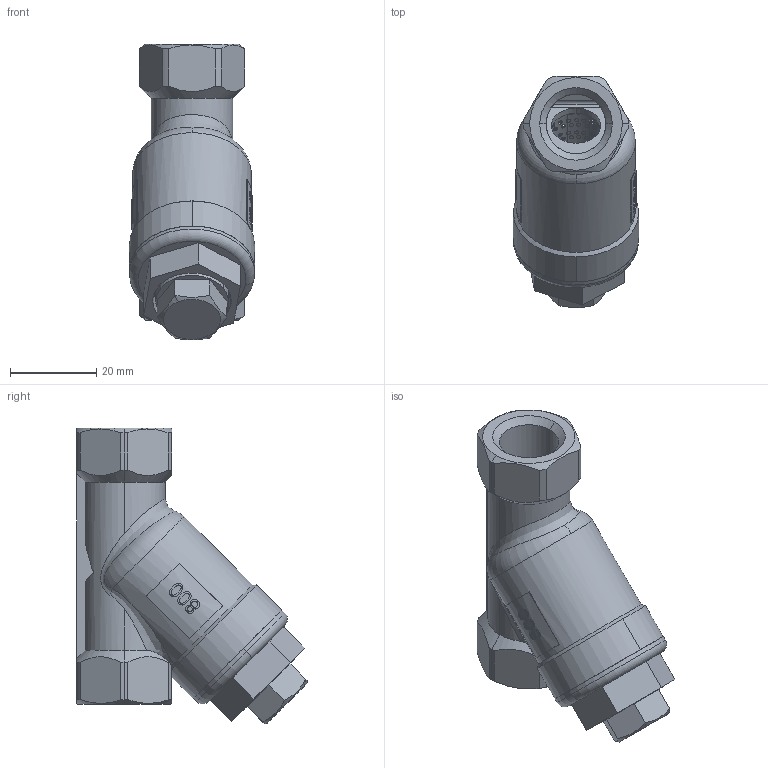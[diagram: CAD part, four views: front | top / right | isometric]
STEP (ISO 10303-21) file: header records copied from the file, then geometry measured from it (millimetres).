
FILE_DESCRIPTION (( 'STEP AP203' ), '1' );
FILE_NAME ('MV-41B-000 DN10.STEP', '2023-02-11T01:56:24', ( '' ), ( '' ), 'SwSTEP 2.0', 'SolidWorks 2012', '' );
FILE_SCHEMA (( 'CONFIG_CONTROL_DESIGN' ));
Length unit declared in the file: millimetre
Products named in the file (7): MV-41B-000 DN10; MV-41B DN10 BLOW OFF; MV-41B DN15 JOINT GASKET; 薦厙; MV-41B DN10 O-RING; MV-41B DN10 CAP; MV-41B DN10 BODY
Assembly tree (6 placements, depth 2):
  MV-41B-000 DN10
    MV-41B DN10 BODY
    MV-41B DN10 CAP
    MV-41B DN10 BLOW OFF
    MV-41B DN10 O-RING
    MV-41B DN15 JOINT GASKET
    薦厙
Bounding box: 29 x 53.45 x 68.55 mm (x, y, z)
Volume: 26332.4 mm3; surface area: 21043 mm2
Topology: 6 solids, 6 shells, 1386 faces, 3437 edges, 2255 vertices
Faces by surface type: bspline 960, cylinder 300, plane 99, cone 23, torus 4
Entity records: 98734 total; most frequent: CARTESIAN_POINT 72383, ORIENTED_EDGE 6786, EDGE_CURVE 3393, VERTEX_POINT 2233, B_SPLINE_CURVE_WITH_KNOTS 2108, EDGE_LOOP 2034, DIRECTION 1908, ADVANCED_FACE 1176
